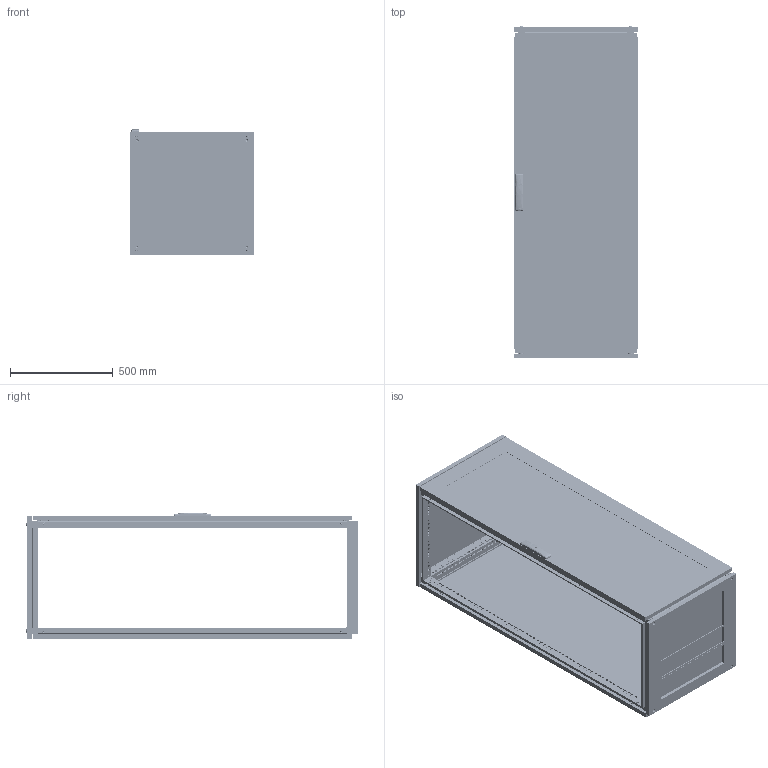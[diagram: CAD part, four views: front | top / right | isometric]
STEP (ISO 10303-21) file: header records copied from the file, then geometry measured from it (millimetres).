
FILE_DESCRIPTION (( 'STEP AP203' ), '1' );
FILE_NAME ('R5CQEN1666AX.STEP', '2025-05-07T11:37:43', ( '' ), ( '' ), 'SwSTEP 2.0', 'SolidWorks 2022', '' );
FILE_SCHEMA (( 'CONFIG_CONTROL_DESIGN' ));
Length unit declared in the file: millimetre
Products named in the file (66): M6x15 Erickson cl.4,8 Zinc; RB.0528.04.00.0 СБ simple; RB.2172.00.00.1 simple; RB.2457.00.00.0 СБ simple_-14; Glue CPTE simple_1600x0600; RB.2969.00.01.0 simple; Glass CPTE_1600x0600; RB.2968.00.00.0 simple; RB.2685.00.00.0 simple_-02; RB.2680.00.00.0 СБ simple; R5NCRE-Assem simple_R5NCRE1660; М6х12 A5100231_straight; R5CQEN1666AX; Pin 4x16 DIN 7 AISI 303 (A1) simple; TPA.08.0084.00.00.0 simple; RB.2456.00.00.0 simple_-02; M6x10 DIN 7500 E HX cl.5.8 Zinc_straight; ATOS Traction guide ILY03.35; RB.2696.00.00.0 simple; R5NKTB - Assem simple_H=1600 R5NKTB66; RB.2686.00.00.0 simple; RB.2969.00.00.0 СБ simple; M6 MGR-MKO-0625 simple_Thread; RB.1867.01.00.0 СБ simple_-24; M6x10 DIN 7500 M Torx cl.5.8 Zinc_straight; RB.0528.04.01.0 simple; RB.1957.00.00.0 simple_-05; RB.0528.00.01.0 simple_-03; RB.0054.01.01.0 simple_-11; RB.2357.00.00.0 simple_-03; RB.2052.01.00.0 СБ simple_-11; RB.2680.00.01.0 simple; PF 5x10 KTB simple_600x600; RB.2528.00.00.0 simple_-03; RB.1867.01.01.0 simple_-09; 7 DIN 6799 Zinc; RB.2702.00.00.0 simple; M6 DIN 985 cl.6,0 Zinc_straight; M12x16 ISO 7380-1 HX cl.4,8 Zinc_straight; AC00C446-R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
Assembly tree (173 placements, depth 5):
  R5CQEN1666AX
    R5NCPTE - Assem simple_R5NCPTE1660
      RB.0562.00.00.0 СБ simple_-09
        RB.0562.01.00.0 СБ simple_-09
          RB.0562.01.01.0 simple_-09
          М6х12 A5100231_straight  x7
          RB.2702.00.00.0 simple  x4
          PF 7,5x15 CPE simple_1600x0600
          Glass CPTE_1600x0600
          Glue CPTE simple_1600x0600
        Square cap 20x20 simple  x2
        M6x15 Erickson cl.4,8 Zinc  x2
        RB.0528.00.01.0 simple_-03  x2
        ATOS Traction guide ILY03.35  x4
        RB.2357.00.00.0 simple_-03
        RB.2680.00.00.0 СБ simple
          TPA.08.0139.00.01.0 simple
          RB.2680.00.01.0 simple
          RB.2680.00.02.0 simple  x2
        TPA.08.0139.00.03.0  x2
        M6 DIN 985 cl.6,0 Zinc_straight  x4
        4,0x16 F Torx Zinc (ART 88200)_thread  x2
        RB.0528.04.00.0 СБ simple  x2
          RB.0528.04.01.0 simple
          Pressing stud FH-M6-12_M6x12mm
      M6x10 DIN 912 HX cl.8,8 Zinc_straight  x8
      4.8x13 DIN 7981 PH Zinc_straight
      7 DIN 6799 Zinc simple  x4
      RB.2968.00.00.0 simple  x4
      RB.2969.00.00.0 СБ simple  x4
        RB.2969.00.01.0 simple
        Pin 4x16 DIN 7 AISI 303 (A1) simple
        M6 MGR-MKO-0625 simple_Thread
      AC00C446-R
      RB.2696.00.00.0 simple  x4
      7 DIN 6799 Zinc  x4
    R5NCRE-Assem simple_R5NCRE1660
      RB.2052.00.00.0 СБ simple_-11
        RB.2052.01.00.0 СБ simple_-11
          RB.0054.01.01.0 simple_-11
          М6х12 A5100231_straight  x4
        PF 7x14 CRE simple_1600x0600
      RB.2172.00.00.1 simple  x8
      M6x10 DIN 7500 E HX cl.5.8 Zinc_straight  x8
      M6x10 DIN 7500 M Torx cl.5.8 Zinc_straight  x8
    R5NKMN - Assem simple_R5NKMN16 (600х600)
      RB.2528.00.00.0 simple_-03  x4
    R5NKTB - Assem simple_H=1600 R5NKTB66
      RB.2499.00.00.0 СБ simple_-14
        RB.2499.01.00.0 СБ simple_-13
          RB.1633.00.01.0 simple_-02  x2
          RB.1633.00.02.0 simple_-02  x2
          PF 5x10 KTB simple_600x600
        RB.2457.00.00.0 СБ simple_-14
          RB.2455.00.00.0 simple_-02  x2
          RB.2456.00.00.0 simple_-02  x2
          TPA.08.0084.00.00.0 simple  x2
          TPA.08.0083.00.00.0 simple  x2
          M8x12 AC00C476 cl.8,8 Zinc_stright  x4
        RB.1957.00.00.0 simple_-05  x2
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Bounding box: 600 x 1613.3 x 614.74 mm (x, y, z)
Volume: 12727337 mm3; surface area: 11263876.1 mm2
Topology: 176 solids, 192 shells, 20301 faces, 57327 edges, 37699 vertices
Faces by surface type: plane 11427, cylinder 7333, cone 704, bspline 435, torus 368, sphere 34
Entity records: 206796 total; most frequent: CARTESIAN_POINT 52289, ORIENTED_EDGE 30494, DIRECTION 28953, EDGE_CURVE 15273, VERTEX_POINT 10102, AXIS2_PLACEMENT_3D 9709, LINE 9535, VECTOR 9535
